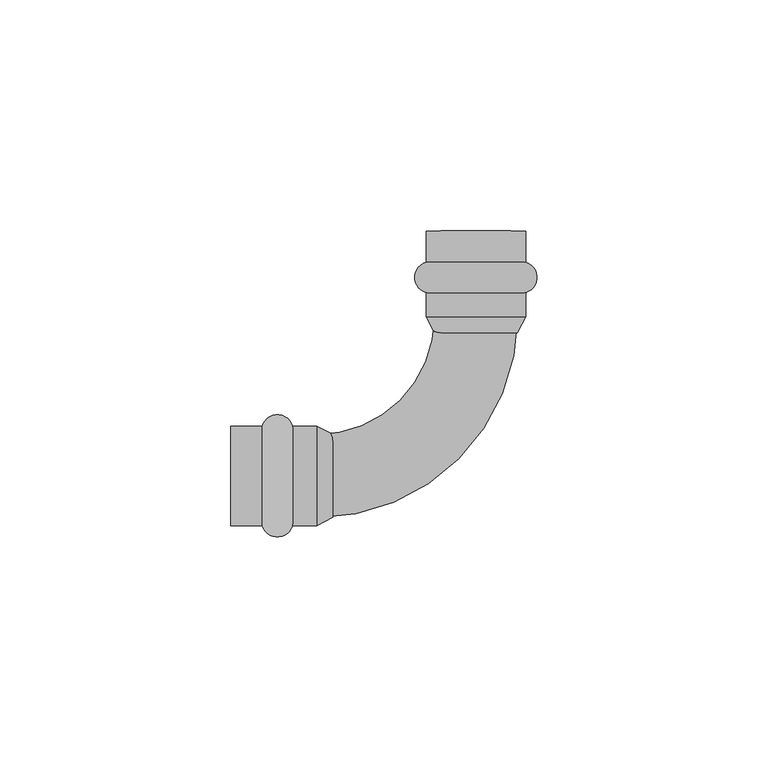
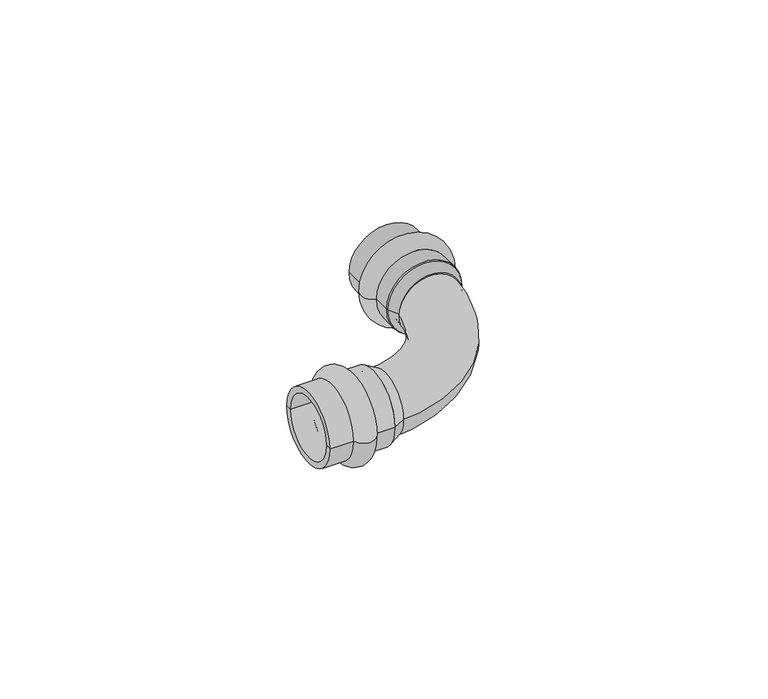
"""IFC4 building model written with IfcOpenShell, lengths in millimetres: pipe fitting geometry, VALTEC_VTi.951.I_Угольник 90° (раструб-раструб) нержавеющая сталь : VTi.951.I."""

from ifc_helpers import new_model, si_unit, point, frame, origin, place, context, project, spatial, polyline, circle_curve, ellipse_curve, trimmed, source, transform, mapped, element, save
from ifc_brep_helpers import plane_surface, cylinder_surface, revolved_surface, advanced_brep


def pipe_fitting_4f570de9(model_context):
    return source(origin(), model_context, "Body", "AdvancedBrep", [
        advanced_brep(
        [(-46.2287193, -10.75, 0.0), (-46.2287193, 10.75, 0.0), (-39.6712807, 10.75, 0.0), (-39.6712807, -10.75, 0.0), (-53.0, -10.75, 0.0), (-53.0, 10.75, 0.0), (-53.0, -9.0, 0.0), (-53.0, 9.0, 0.0), (-34.45, -9.0, 0.0), (-34.45, 9.0, 0.0), (-34.45, -10.75, 0.0), (-34.45, 10.75, 0.0)],
        [
            (0, 1, circle_curve(frame((-46.2287193, 0.0, 0.0), z_axis=(1.0, 0.0, 0.0), x_axis=(0.0, 1.0, 0.0)), 10.75)),
            (1, 2, circle_curve(frame((-42.95, 9.85, 0.0), z_axis=(0.0, 0.0, -1.0), x_axis=(1.0, 0.0, 0.0)), 3.4)),
            (2, 3, circle_curve(frame((-39.6712807, 0.0, 0.0), z_axis=(-1.0, 0.0, 0.0), x_axis=(0.0, 1.0, 0.0)), 10.75)),
            (3, 0, circle_curve(frame((-42.95, -9.85, 0.0), z_axis=(0.0, 0.0, -1.0), x_axis=(1.0, 0.0, 0.0)), 3.4)),
            (1, 0, circle_curve(frame((-46.2287193, 0.0, 0.0), z_axis=(1.0, 0.0, 0.0), x_axis=(0.0, 1.0, 0.0)), 10.75)),
            (3, 2, circle_curve(frame((-39.6712807, 0.0, 0.0), z_axis=(-1.0, 0.0, 0.0), x_axis=(0.0, 1.0, 0.0)), 10.75)),
            (4, 5, circle_curve(frame((-53.0, 0.0, 0.0), z_axis=(1.0, 0.0, 0.0), x_axis=(0.0, 1.0, 0.0)), 10.75)),
            (5, 1),
            (0, 4),
            (5, 4, circle_curve(frame((-53.0, 0.0, 0.0), z_axis=(1.0, 0.0, 0.0), x_axis=(0.0, 1.0, 0.0)), 10.75)),
            (6, 7, circle_curve(frame((-53.0, 0.0, 0.0), z_axis=(1.0, 0.0, 0.0), x_axis=(0.0, 1.0, 0.0)), 9.0)),
            (7, 5),
            (4, 6),
            (7, 6, circle_curve(frame((-53.0, 0.0, 0.0), z_axis=(1.0, 0.0, 0.0), x_axis=(0.0, 1.0, 0.0)), 9.0)),
            (8, 9, circle_curve(frame((-34.45, 0.0, 0.0), z_axis=(1.0, 0.0, 0.0), x_axis=(0.0, 1.0, 0.0)), 9.0)),
            (9, 7),
            (6, 8),
            (9, 8, circle_curve(frame((-34.45, 0.0, 0.0), z_axis=(1.0, 0.0, 0.0), x_axis=(0.0, 1.0, 0.0)), 9.0)),
            (10, 11, circle_curve(frame((-34.45, 0.0, 0.0), z_axis=(1.0, 0.0, 0.0), x_axis=(0.0, 1.0, 0.0)), 10.75)),
            (11, 9),
            (8, 10),
            (11, 10, circle_curve(frame((-34.45, 0.0, 0.0), z_axis=(1.0, 0.0, 0.0), x_axis=(0.0, 1.0, 0.0)), 10.75)),
            (2, 11),
            (10, 3),
        ],
        [
            revolved_surface(trimmed(ellipse_curve(frame((-42.95, 9.85, 0.0), z_axis=(0.0, 0.0, 1.0), x_axis=(1.0, 0.0, 0.0)), 3.4, 3.4), [point((-39.6712807, 10.75, 0.0))], [point((-46.2287193, 10.75, 0.0))], True, "CARTESIAN"), (-56.5364426, 0.0, 0.0), (-1.0, 0.0, 0.0)),
            cylinder_surface(frame((-56.5364426, 0.0, 0.0), z_axis=(-1.0, 0.0, 0.0), x_axis=(0.0, 1.0, 0.0)), 10.75),
            plane_surface(frame((-53.0, 0.0, 0.0), z_axis=(-1.0, 0.0, 0.0), x_axis=(0.0, 1.0, 0.0))),
            revolved_surface(polyline([(-53.0, 9.0, 0.0), (-34.45, 9.0, 0.0)]), (-56.5364426, 0.0, 0.0), (-1.0, 0.0, 0.0)),
            plane_surface(frame((-34.45, 0.0, 0.0), z_axis=(1.0, 0.0, 0.0), x_axis=(0.0, 1.0, 0.0))),
        ],
        [
            (0, [[1, 2, 3, 4]]),
            (0, [[5, -4, 6, -2]]),
            (1, [[7, 8, -1, 9]]),
            (1, [[10, -9, -5, -8]]),
            (2, [[11, 12, -7, 13]]),
            (2, [[14, -13, -10, -12]]),
            (3, [[15, 16, -11, 17]]),
            (3, [[18, -17, -14, -16]]),
            (4, [[19, 20, -15, 21]]),
            (4, [[22, -21, -18, -20]]),
            (1, [[-3, 23, -19, 24]]),
            (1, [[-6, -24, -22, -23]]),
        ],
    ),
        advanced_brep(
        [(-10.75, 46.2287193, 0.0), (10.75, 46.2287193, 0.0), (10.75, 39.6712807, 0.0), (-10.75, 39.6712807, 0.0), (-10.75, 53.0, 0.0), (10.75, 53.0, 0.0), (-9.0, 53.0, 0.0), (9.0, 53.0, 0.0), (-9.0, 34.45, 0.0), (9.0, 34.45, 0.0), (-10.75, 34.45, 0.0), (10.75, 34.45, 0.0)],
        [
            (0, 1, circle_curve(frame((0.0, 46.2287193, 0.0), z_axis=(0.0, -1.0, 0.0), x_axis=(1.0, 0.0, 0.0)), 10.75)),
            (1, 2, circle_curve(frame((9.85, 42.95, 0.0), z_axis=(0.0, 0.0, -1.0), x_axis=(0.0, -1.0, 0.0)), 3.4)),
            (2, 3, circle_curve(frame((0.0, 39.6712807, 0.0), z_axis=(0.0, 1.0, 0.0), x_axis=(1.0, 0.0, 0.0)), 10.75)),
            (3, 0, circle_curve(frame((-9.85, 42.95, 0.0), z_axis=(0.0, 0.0, -1.0), x_axis=(0.0, -1.0, 0.0)), 3.4)),
            (1, 0, circle_curve(frame((0.0, 46.2287193, 0.0), z_axis=(0.0, -1.0, 0.0), x_axis=(1.0, 0.0, 0.0)), 10.75)),
            (3, 2, circle_curve(frame((0.0, 39.6712807, 0.0), z_axis=(0.0, 1.0, 0.0), x_axis=(1.0, 0.0, 0.0)), 10.75)),
            (4, 5, circle_curve(frame((0.0, 53.0, 0.0), z_axis=(0.0, -1.0, 0.0), x_axis=(1.0, 0.0, 0.0)), 10.75)),
            (5, 1),
            (0, 4),
            (5, 4, circle_curve(frame((0.0, 53.0, 0.0), z_axis=(0.0, -1.0, 0.0), x_axis=(1.0, 0.0, 0.0)), 10.75)),
            (6, 7, circle_curve(frame((0.0, 53.0, 0.0), z_axis=(0.0, -1.0, 0.0), x_axis=(1.0, 0.0, 0.0)), 9.0)),
            (7, 5),
            (4, 6),
            (7, 6, circle_curve(frame((0.0, 53.0, 0.0), z_axis=(0.0, -1.0, 0.0), x_axis=(1.0, 0.0, 0.0)), 9.0)),
            (8, 9, circle_curve(frame((0.0, 34.45, 0.0), z_axis=(0.0, -1.0, 0.0), x_axis=(1.0, 0.0, 0.0)), 9.0)),
            (9, 7),
            (6, 8),
            (9, 8, circle_curve(frame((0.0, 34.45, 0.0), z_axis=(0.0, -1.0, 0.0), x_axis=(1.0, 0.0, 0.0)), 9.0)),
            (10, 11, circle_curve(frame((0.0, 34.45, 0.0), z_axis=(0.0, -1.0, 0.0), x_axis=(1.0, 0.0, 0.0)), 10.75)),
            (11, 9),
            (8, 10),
            (11, 10, circle_curve(frame((0.0, 34.45, 0.0), z_axis=(0.0, -1.0, 0.0), x_axis=(1.0, 0.0, 0.0)), 10.75)),
            (2, 11),
            (10, 3),
        ],
        [
            revolved_surface(trimmed(ellipse_curve(frame((9.85, 42.95, 0.0), z_axis=(0.0, 0.0, 1.0), x_axis=(0.0, -1.0, 0.0)), 3.4, 3.4), [point((10.75, 39.6712807, 0.0))], [point((10.75, 46.2287193, 0.0))], True, "CARTESIAN"), (0.0, 56.5364426, 0.0), (0.0, 1.0, 0.0)),
            cylinder_surface(frame((0.0, 56.5364426, 0.0), z_axis=(0.0, 1.0, 0.0), x_axis=(1.0, 0.0, 0.0)), 10.75),
            plane_surface(frame((0.0, 53.0, 0.0), z_axis=(0.0, 1.0, 0.0), x_axis=(1.0, 0.0, 0.0))),
            revolved_surface(polyline([(9.0, 53.0, 0.0), (9.0, 34.45, 0.0)]), (0.0, 56.5364426, 0.0), (0.0, 1.0, 0.0)),
            plane_surface(frame((0.0, 34.45, 0.0), z_axis=(0.0, -1.0, 0.0), x_axis=(1.0, 0.0, 0.0))),
        ],
        [
            (0, [[1, 2, 3, 4]]),
            (0, [[5, -4, 6, -2]]),
            (1, [[7, 8, -1, 9]]),
            (1, [[10, -9, -5, -8]]),
            (2, [[11, 12, -7, 13]]),
            (2, [[14, -13, -10, -12]]),
            (3, [[15, 16, -11, 17]]),
            (3, [[18, -17, -14, -16]]),
            (4, [[19, 20, -15, 21]]),
            (4, [[22, -21, -18, -20]]),
            (1, [[-3, 23, -19, 24]]),
            (1, [[-6, -24, -22, -23]]),
        ],
    ),
        advanced_brep(
        [(-34.45, -10.75, 0.0), (-34.45, 10.75, 0.0), (-31.005, -9.0, 0.0), (-31.005, 9.0, 0.0)],
        [
            (0, 1, circle_curve(frame((-34.45, 0.0, 0.0), z_axis=(-1.0, 0.0, 0.0), x_axis=(0.0, -1.0, 0.0)), 10.75)),
            (1, 0, circle_curve(frame((-34.45, 0.0, 0.0), z_axis=(-1.0, 0.0, 0.0), x_axis=(0.0, 1.0, 0.0)), 10.75)),
            (2, 3, circle_curve(frame((-31.005, 0.0, 0.0), z_axis=(1.0, 0.0, 0.0), x_axis=(0.0, 1.0, 0.0)), 9.0)),
            (3, 2, circle_curve(frame((-31.005, 0.0, 0.0), z_axis=(1.0, 0.0, 0.0), x_axis=(0.0, -1.0, 0.0)), 9.0)),
            (2, 0),
            (1, 3),
        ],
        [
            plane_surface(frame((-34.45, 0.0, 0.0), z_axis=(-1.0, 0.0, 0.0), x_axis=(0.0, 0.0, -1.0))),
            plane_surface(frame((-31.005, 0.0, 0.0), z_axis=(1.0, 0.0, 0.0), x_axis=(0.0, 0.0, -1.0))),
            revolved_surface(polyline([(-31.005, -9.000000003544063, 0.0), (-34.45, -10.75, 0.0)]), (-13.2878571, 0.0, 0.0), (-1.0, 0.0, 0.0)),
            revolved_surface(polyline([(-31.005, 9.000000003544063, 0.0), (-34.45, 10.75, 0.0)]), (-13.2878571, 0.0, 0.0), (-1.0, 0.0, 0.0)),
        ],
        [
            (0, [[1, 2]]),
            (1, [[3, 4]]),
            (2, [[-3, 5, -2, 6]]),
            (3, [[-4, -6, -1, -5]]),
        ],
    ),
        advanced_brep(
        [(-10.75, 34.45, 0.0), (10.75, 34.45, 0.0), (-9.0, 31.005, 0.0), (9.0, 31.005, 0.0)],
        [
            (0, 1, circle_curve(frame((0.0, 34.45, 0.0), z_axis=(0.0, 1.0, 0.0), x_axis=(-1.0, 0.0, 0.0)), 10.75)),
            (1, 0, circle_curve(frame((0.0, 34.45, 0.0), z_axis=(0.0, 1.0, 0.0), x_axis=(1.0, 0.0, 0.0)), 10.75)),
            (2, 3, circle_curve(frame((0.0, 31.005, 0.0), z_axis=(0.0, -1.0, 0.0), x_axis=(1.0, 0.0, 0.0)), 9.0)),
            (3, 2, circle_curve(frame((0.0, 31.005, 0.0), z_axis=(0.0, -1.0, 0.0), x_axis=(-1.0, 0.0, 0.0)), 9.0)),
            (2, 0),
            (1, 3),
        ],
        [
            plane_surface(frame((0.0, 34.45, 0.0), z_axis=(0.0, 1.0, 0.0), x_axis=(0.0, 0.0, -1.0))),
            plane_surface(frame((0.0, 31.005, 0.0), z_axis=(0.0, -1.0, 0.0), x_axis=(0.0, 0.0, -1.0))),
            revolved_surface(polyline([(-9.000000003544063, 31.005, 0.0), (-10.75, 34.45, 0.0)]), (0.0, 13.2878571, 0.0), (0.0, 1.0, 0.0)),
            revolved_surface(polyline([(9.000000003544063, 31.005, 0.0), (10.75, 34.45, 0.0)]), (0.0, 13.2878571, 0.0), (0.0, 1.0, 0.0)),
        ],
        [
            (0, [[1, 2]]),
            (1, [[3, 4]]),
            (2, [[-3, 5, -2, 6]]),
            (3, [[-4, -6, -1, -5]]),
        ],
    ),
        advanced_brep(
        [(-34.45, -9.0551605, 0.0), (-34.45, 8.9448395, 0.0), (9.0551605, 34.45, 0.0), (-8.9448395, 34.45, 0.0)],
        [
            (0, 1, circle_curve(frame((-34.45, -0.0551605, 0.0), z_axis=(-1.0, 0.0, 0.0), x_axis=(0.0, 1.0, 0.0)), 9.0)),
            (1, 0, circle_curve(frame((-34.45, -0.0551605, 0.0), z_axis=(-1.0, 0.0, 0.0), x_axis=(0.0, 1.0, 0.0)), 9.0)),
            (2, 3, circle_curve(frame((0.0551605, 34.45, 0.0), z_axis=(0.0, 1.0, 0.0), x_axis=(-1.0, 0.0, 0.0)), 9.0)),
            (3, 2, circle_curve(frame((0.0551605, 34.45, 0.0), z_axis=(0.0, 1.0, 0.0), x_axis=(-1.0, 0.0, 0.0)), 9.0)),
            (3, 1, circle_curve(frame((-34.45, 34.45, 0.0), z_axis=(0.0, 0.0, -1.0), x_axis=(0.0, -1.0, 0.0)), 25.5051605)),
            (0, 2, circle_curve(frame((-34.45, 34.45, 0.0), z_axis=(0.0, 0.0, 1.0), x_axis=(0.0, -1.0, 0.0)), 43.5051605)),
        ],
        [
            plane_surface(frame((-34.45, 0.0, 0.0), z_axis=(-1.0, 0.0, 0.0), x_axis=(0.0, 0.0, 1.0))),
            plane_surface(frame((0.0, 34.45, 0.0), z_axis=(0.0, 1.0, 0.0), x_axis=(0.0, 0.0, 1.0))),
            revolved_surface(trimmed(ellipse_curve(frame((-34.45, -0.0551605, 0.0), z_axis=(-1.0, 0.0, 0.0), x_axis=(0.0, 1.0, 0.0)), 9.0, 9.0), [point((-34.45, -9.0551605, 0.0))], [point((-34.45, 8.9448395, 0.0))], True, "CARTESIAN"), (-34.45, 34.45, 0.0), (0.0, 0.0, 1.0)),
            revolved_surface(trimmed(ellipse_curve(frame((-34.45, -0.0551605, 0.0), z_axis=(-1.0, 0.0, 0.0), x_axis=(0.0, 1.0, 0.0)), 9.0, 9.0), [point((-34.45, 8.9448395, 0.0))], [point((-34.45, -9.0551605, 0.0))], True, "CARTESIAN"), (-34.45, 34.45, 0.0), (0.0, 0.0, 1.0)),
        ],
        [
            (0, [[1, 2]]),
            (1, [[3, 4]]),
            (2, [[5, -1, 6, -4]]),
            (3, [[-6, -2, -5, -3]]),
        ],
    ),
    ])


if __name__ == "__main__":
    model = new_model("IFC4")
    model_context = context("Model", 3, world=origin())
    ifc_project = project(units=[si_unit("LENGTHUNIT", "METRE", prefix="MILLI")], contexts=[model_context])
    site = spatial("IfcSite", under=ifc_project)
    building = spatial("IfcBuilding", under=site)
    placement = place(None, origin())
    pipe_fitting_shape = pipe_fitting_4f570de9(model_context)
    element("IfcPipeFitting", 1, ObjectType="VALTEC_VTi.951.I_Угольник 90° (раструб-раструб) нержавеющая сталь : VTi.951.I", at=placement, inside=building, context=model_context, shape_type="MappedRepresentation", body=[
        mapped(pipe_fitting_shape, transform((0.0, 0.0, 0.0), x_axis=(1.0, 0.0, 0.0), y_axis=(0.0, 1.0, 0.0), z_axis=(0.0, 0.0, 1.0))),
    ])
    save(model, "model.ifc")
